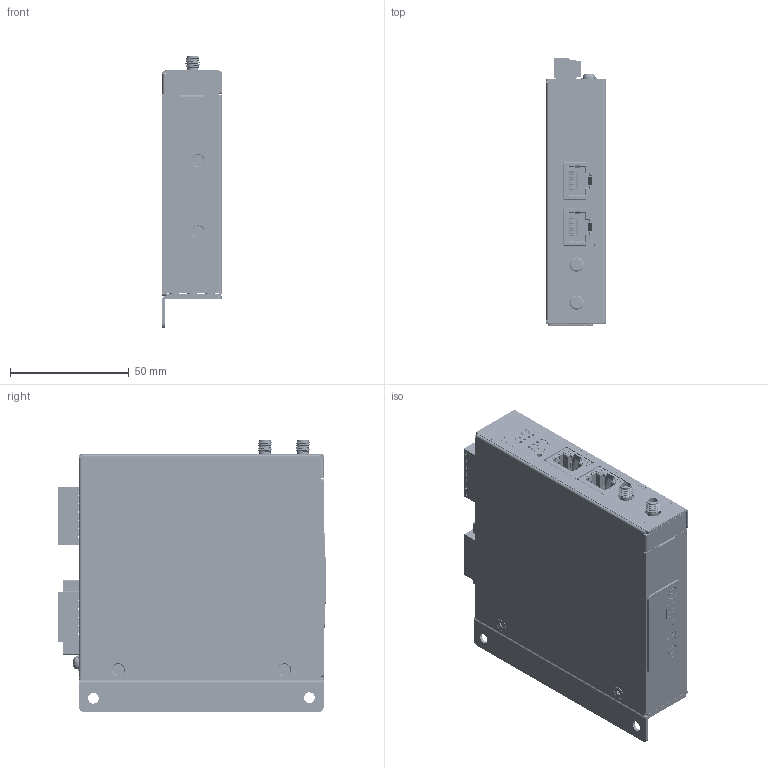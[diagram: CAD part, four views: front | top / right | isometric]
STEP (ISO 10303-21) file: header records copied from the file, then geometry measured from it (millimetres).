
FILE_DESCRIPTION (( 'STEP AP214' ), '1' );
FILE_NAME ('ICR-24xx_Wall_mount.STEP', '2024-10-04T08:30:40', ( '' ), ( '' ), 'SwSTEP 2.0', 'SolidWorks 2024', '' );
FILE_SCHEMA (( 'AUTOMOTIVE_DESIGN' ));
Length unit declared in the file: millimetre
Products named in the file (28): SCR_ZC_M3_L6_PH_PW; SIM7155-6-1-14-A_PART1; SCR_BK_M3_L5_PH_FL_TW_GLUE; VMC-2022-04-1_Label - Insert SIM carefully_B; B-ICR24xx A103-1; ICR-24xx_Wall_mount; PUSH_SW_3P; SIM7155-6-1-14-A_PART2; VMC-2022-04-1_Label - Insert SIM carefully; LED_HOLDER_GGGG; Terminal_Block_1x7P; ICR-2400_FRONT_Label; BTB_20P_Connector; Pin_Header_5x2P; VMC-2022-04-1_Label - Insert SIM carefully_A; Chassis_for_ICR-24xx; PCB_ICR-20(4)xx; RJ45_8p_ Connector; Terminal_Block_1x6P; SCR_ZC_M3_L6_PH_PW_2; SMA_5P_Connector; SCR_BK_M3_L5_PH_FL_TW; Plate_for_SIM_ICR-2(0,4,5,6)xx; Wall_mount_ICR-2(0,4)xx; Micro_SIM_ card_Connector; Plug-In_Block_1x6P; Plug-In_Block_1x7P; Cover_for_ICR_24xx
Assembly tree (41 placements, depth 4):
  ICR-24xx_Wall_mount
    B-ICR24xx A103-1
      PCB_ICR-20(4)xx
      Micro_SIM_ card_Connector  x2
        SIM7155-6-1-14-A_PART1
        SIM7155-6-1-14-A_PART2
      Terminal_Block_1x7P
      Pin_Header_5x2P
      Terminal_Block_1x6P
      PUSH_SW_3P
      SMA_5P_Connector  x2
      LED_HOLDER_GGGG  x2
      RJ45_8p_ Connector  x2
      BTB_20P_Connector
    Chassis_for_ICR-24xx
    Cover_for_ICR_24xx
    Plate_for_SIM_ICR-2(0,4,5,6)xx
    Plug-In_Block_1x7P
    Plug-In_Block_1x6P
    ICR-2400_FRONT_Label
    VMC-2022-04-1_Label - Insert SIM carefully
      VMC-2022-04-1_Label - Insert SIM carefully_A
      VMC-2022-04-1_Label - Insert SIM carefully_B
    SCR_BK_M3_L5_PH_FL_TW  x5
    SCR_BK_M3_L5_PH_FL_TW_GLUE  x4
    SCR_ZC_M3_L6_PH_PW_2
    SCR_ZC_M3_L6_PH_PW  x4
    Wall_mount_ICR-2(0,4)xx
Bounding box: 25 x 112.9 x 114.6 mm (x, y, z)
Volume: 65933.5 mm3; surface area: 118525.3 mm2
Topology: 58 solids, 72 shells, 12336 faces, 34444 edges, 22300 vertices
Faces by surface type: plane 8085, cylinder 2772, bspline 1003, cone 295, torus 105, sphere 76
Entity records: 424450 total; most frequent: CARTESIAN_POINT 103321, ORIENTED_EDGE 50270, DIRECTION 43586, EDGE_CURVE 25135, VECTOR 18862, LINE 18862, VERTEX_POINT 16272, AXIS2_PLACEMENT_3D 12362
